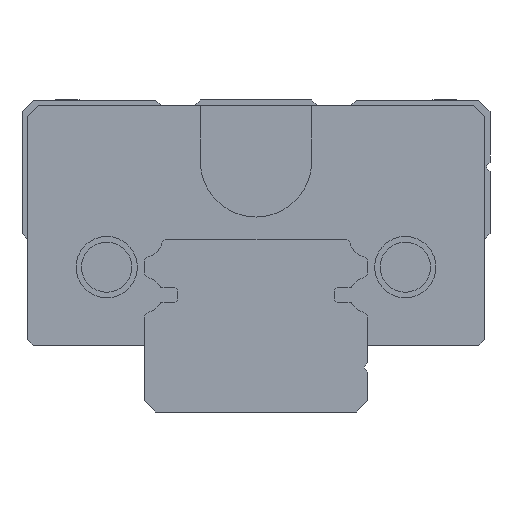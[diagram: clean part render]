
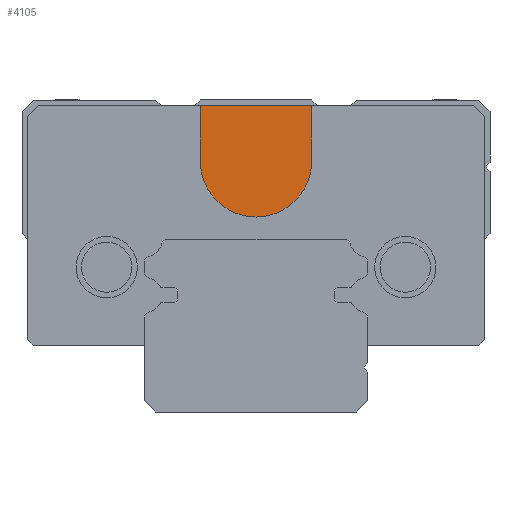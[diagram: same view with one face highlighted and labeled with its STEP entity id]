
A CAD part, left-side view. The second image highlights one B-rep face of the part: STEP entity #4105.
In plain terms, the highlighted planar face has unit normal (-1, 0, 0).
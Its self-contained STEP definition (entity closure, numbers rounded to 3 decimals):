
#3990=CARTESIAN_POINT('',(177.837,-5.0,22.5));
#3991=VERTEX_POINT('',#3990);
#3992=CARTESIAN_POINT('',(177.837,-5.0,27.5));
#3993=VERTEX_POINT('',#3992);
#3994=CARTESIAN_POINT('',(177.837,-5.0,22.5));
#3995=DIRECTION('',(0.0,0.0,1.0));
#3996=VECTOR('',#3995,5.0);
#3997=LINE('',#3994,#3996);
#3998=EDGE_CURVE('',#3991,#3993,#3997,.T.);
#4030=CARTESIAN_POINT('',(177.837,5.0,27.5));
#4031=VERTEX_POINT('',#4030);
#4032=CARTESIAN_POINT('',(177.837,5.0,22.5));
#4033=VERTEX_POINT('',#4032);
#4034=CARTESIAN_POINT('',(177.837,5.0,27.5));
#4035=DIRECTION('',(0.0,0.0,-1.0));
#4036=VECTOR('',#4035,5.0);
#4037=LINE('',#4034,#4036);
#4038=EDGE_CURVE('',#4031,#4033,#4037,.T.);
#4070=CARTESIAN_POINT('',(177.837,0.0,22.5));
#4071=DIRECTION('',(-1.0,0.0,0.0));
#4072=DIRECTION('',(0.0,-1.0,0.0));
#4073=AXIS2_PLACEMENT_3D('',#4070,#4071,#4072);
#4074=CIRCLE('',#4073,5.0);
#4075=EDGE_CURVE('',#4033,#3991,#4074,.T.);
#4089=CARTESIAN_POINT('',(177.837,0.,23.338));
#4090=DIRECTION('',(1.0,0.0,0.0));
#4091=DIRECTION('',(0.0,0.0,-1.0));
#4092=AXIS2_PLACEMENT_3D('',#4089,#4090,#4091);
#4093=PLANE('',#4092);
#4094=ORIENTED_EDGE('',*,*,#3998,.T.);
#4095=CARTESIAN_POINT('',(177.837,5.0,27.5));
#4096=DIRECTION('',(0.0,-1.0,0.0));
#4097=VECTOR('',#4096,10.0);
#4098=LINE('',#4095,#4097);
#4099=EDGE_CURVE('',#4031,#3993,#4098,.T.);
#4100=ORIENTED_EDGE('',*,*,#4099,.F.);
#4101=ORIENTED_EDGE('',*,*,#4038,.T.);
#4102=ORIENTED_EDGE('',*,*,#4075,.T.);
#4103=EDGE_LOOP('',(#4094,#4100,#4101,#4102));
#4104=FACE_OUTER_BOUND('',#4103,.T.);
#4105=ADVANCED_FACE('',(#4104),#4093,.F.);
